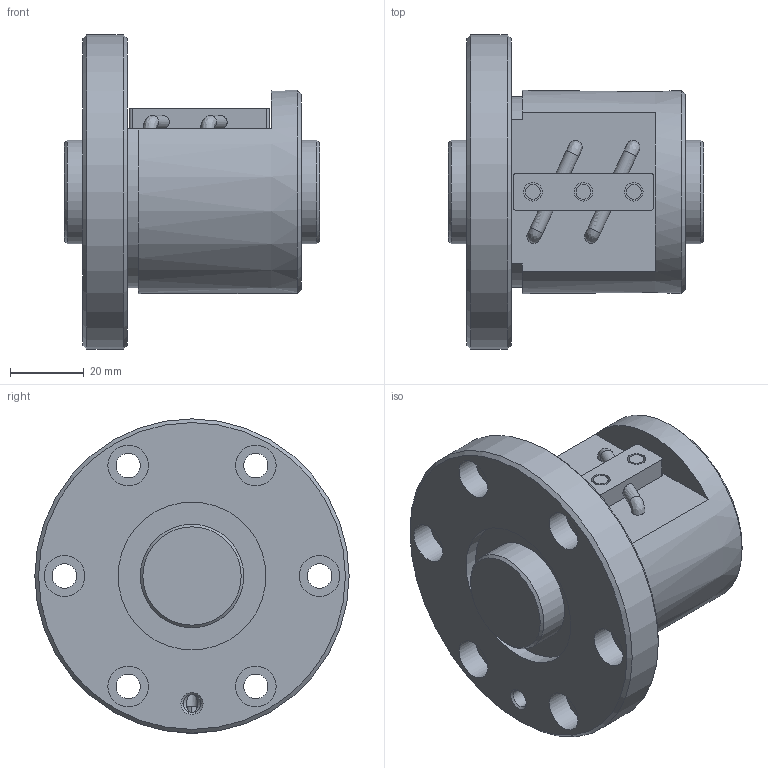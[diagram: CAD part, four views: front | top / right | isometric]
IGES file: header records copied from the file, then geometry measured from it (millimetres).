
Start section: Data from Parasolid IGES Translator 26.0.171, Copyright(c) 2006 Siemens PLM Software. All Rights Reserved.
Global section: file name: BNF2805V-5RRG1+69LC0_000_rev.igs; native system: By Siemens PLM Incorporated; preprocessor: XPlus GENERIC/IGES 26.0.171; author: Noname; organization: Noname; date: 20240806.072951; units: millimetre
Bounding box: 69 x 85 x 85 mm (x, y, z)
Surface area: 37437.3 mm2 (no closed solid volume)
Topology: 0 solids, 0 shells, 80 faces, 378 edges, 334 vertices
Faces by surface type: revolution 51, extrusion 29
